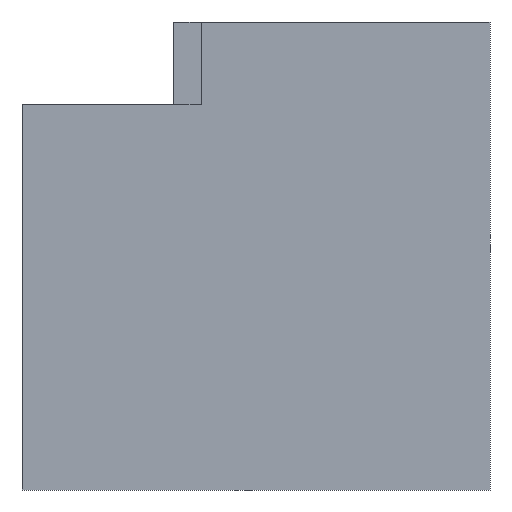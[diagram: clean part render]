
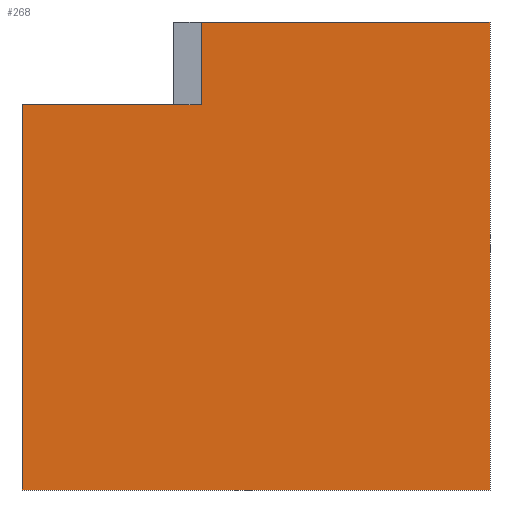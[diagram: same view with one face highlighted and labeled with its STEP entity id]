
A CAD part, front view. The second image highlights one B-rep face of the part: STEP entity #268.
In plain terms, the highlighted planar face has unit normal (0, -1, 0).
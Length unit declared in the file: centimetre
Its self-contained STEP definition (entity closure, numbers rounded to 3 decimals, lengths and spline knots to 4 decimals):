
#7 = PLANE ( 'NONE',  #124 ) ;
#9 = EDGE_CURVE ( 'NONE', #54, #208, #365, .T. ) ;
#14 = EDGE_CURVE ( 'NONE', #208, #125, #342, .T. ) ;
#18 = VECTOR ( 'NONE', #259, 100. ) ;
#20 = CARTESIAN_POINT ( 'NONE',  ( 229.0264, 0., 823.5319 ) ) ;
#26 = VECTOR ( 'NONE', #255, 100. ) ;
#29 = CARTESIAN_POINT ( 'NONE',  ( 1000., 0., 1000. ) ) ;
#43 = ORIENTED_EDGE ( 'NONE', *, *, #221, .T. ) ;
#50 = ORIENTED_EDGE ( 'NONE', *, *, #118, .T. ) ;
#51 = LINE ( 'NONE', #58, #143 ) ;
#53 = DIRECTION ( 'NONE',  ( 1., 0., 0. ) ) ;
#54 = VERTEX_POINT ( 'NONE', #379 ) ;
#58 = CARTESIAN_POINT ( 'NONE',  ( 0., 0., 0. ) ) ;
#63 = DIRECTION ( 'NONE',  ( 0., 1., 0. ) ) ;
#64 = ORIENTED_EDGE ( 'NONE', *, *, #189, .T. ) ;
#88 = EDGE_CURVE ( 'NONE', #134, #54, #206, .T. ) ;
#95 = DIRECTION ( 'NONE',  ( 0., 0., 1. ) ) ;
#99 = CARTESIAN_POINT ( 'NONE',  ( 323.6207, 0., 822.9942 ) ) ;
#100 = EDGE_CURVE ( 'NONE', #336, #396, #241, .T. ) ;
#104 = ORIENTED_EDGE ( 'NONE', *, *, #100, .F. ) ;
#107 = CARTESIAN_POINT ( 'NONE',  ( 383.3213, 0., 823.5319 ) ) ;
#116 = LINE ( 'NONE', #246, #26 ) ;
#118 = EDGE_CURVE ( 'NONE', #325, #125, #51, .T. ) ;
#122 = CARTESIAN_POINT ( 'NONE',  ( 0., 0., 0. ) ) ;
#124 = AXIS2_PLACEMENT_3D ( 'NONE', #256, #63, #95 ) ;
#125 = VERTEX_POINT ( 'NONE', #183 ) ;
#127 = CARTESIAN_POINT ( 'NONE',  ( 323.6207, 0., 822.9942 ) ) ;
#134 = VERTEX_POINT ( 'NONE', #370 ) ;
#143 = VECTOR ( 'NONE', #53, 100. ) ;
#150 = ORIENTED_EDGE ( 'NONE', *, *, #14, .F. ) ;
#153 = CARTESIAN_POINT ( 'NONE',  ( 0., 0., 822.9942 ) ) ;
#159 = EDGE_CURVE ( 'NONE', #396, #134, #244, .T. ) ;
#180 = DIRECTION ( 'NONE',  ( 1., 0., 0. ) ) ;
#183 = CARTESIAN_POINT ( 'NONE',  ( 1000., 0., 0. ) ) ;
#189 = EDGE_CURVE ( 'NONE', #202, #325, #116, .T. ) ;
#196 = DIRECTION ( 'NONE',  ( 0., 0., 1. ) ) ;
#197 = FACE_OUTER_BOUND ( 'NONE', #212, .T. ) ;
#202 = VERTEX_POINT ( 'NONE', #153 ) ;
#205 = ORIENTED_EDGE ( 'NONE', *, *, #159, .F. ) ;
#206 = LINE ( 'NONE', #107, #18 ) ;
#208 = VERTEX_POINT ( 'NONE', #29 ) ;
#212 = EDGE_LOOP ( 'NONE', ( #353, #235, #205, #104, #43, #64, #50, #150 ) ) ;
#215 = CARTESIAN_POINT ( 'NONE',  ( 0., 0., 1000. ) ) ;
#216 = VECTOR ( 'NONE', #361, 100. ) ;
#221 = EDGE_CURVE ( 'NONE', #336, #202, #223, .T. ) ;
#222 = DIRECTION ( 'NONE',  ( 0., 0., -1. ) ) ;
#223 = LINE ( 'NONE', #345, #376 ) ;
#235 = ORIENTED_EDGE ( 'NONE', *, *, #88, .F. ) ;
#241 = LINE ( 'NONE', #99, #386 ) ;
#244 = LINE ( 'NONE', #20, #216 ) ;
#246 = CARTESIAN_POINT ( 'NONE',  ( 0., 0., 1000. ) ) ;
#252 = CARTESIAN_POINT ( 'NONE',  ( 1000., 0., 1000. ) ) ;
#255 = DIRECTION ( 'NONE',  ( 0., 0., -1. ) ) ;
#256 = CARTESIAN_POINT ( 'NONE',  ( 0., 0., 1000. ) ) ;
#259 = DIRECTION ( 'NONE',  ( 0., 0., 1. ) ) ;
#268 = ADVANCED_FACE ( 'NONE', ( #197 ), #7, .F. ) ;
#324 = VECTOR ( 'NONE', #180, 100. ) ;
#325 = VERTEX_POINT ( 'NONE', #122 ) ;
#336 = VERTEX_POINT ( 'NONE', #127 ) ;
#342 = LINE ( 'NONE', #252, #374 ) ;
#345 = CARTESIAN_POINT ( 'NONE',  ( 323.6207, 0., 822.9942 ) ) ;
#346 = DIRECTION ( 'NONE',  ( -1., 0., 0. ) ) ;
#352 = CARTESIAN_POINT ( 'NONE',  ( 323.6207, 0., 823.5319 ) ) ;
#353 = ORIENTED_EDGE ( 'NONE', *, *, #9, .F. ) ;
#361 = DIRECTION ( 'NONE',  ( 1., 0., 0. ) ) ;
#365 = LINE ( 'NONE', #215, #324 ) ;
#370 = CARTESIAN_POINT ( 'NONE',  ( 383.3213, 0., 823.5319 ) ) ;
#374 = VECTOR ( 'NONE', #222, 100. ) ;
#376 = VECTOR ( 'NONE', #346, 100. ) ;
#379 = CARTESIAN_POINT ( 'NONE',  ( 383.3213, 0., 1000. ) ) ;
#386 = VECTOR ( 'NONE', #196, 100. ) ;
#396 = VERTEX_POINT ( 'NONE', #352 ) ;
